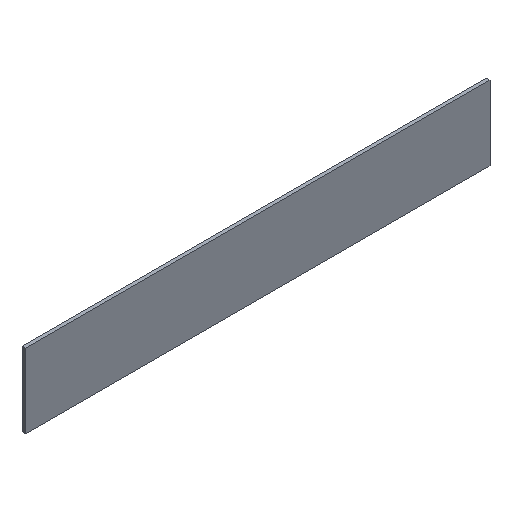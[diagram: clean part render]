
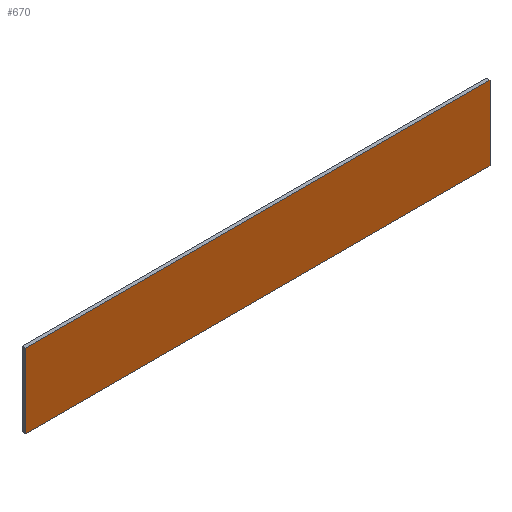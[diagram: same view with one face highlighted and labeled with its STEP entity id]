
A CAD part, isometric view. The second image highlights one B-rep face of the part: STEP entity #670.
In plain terms, the highlighted planar face has unit normal (0, -1, 0).
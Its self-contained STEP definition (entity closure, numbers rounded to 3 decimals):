
#38 = CARTESIAN_POINT ( 'NONE',  ( -25., 0., -4. ) ) ;
#55 = CARTESIAN_POINT ( 'NONE',  ( -25., 0., -4. ) ) ;
#57 = PLANE ( 'NONE',  #147 ) ;
#63 = EDGE_CURVE ( 'NONE', #165, #436, #631, .T. ) ;
#87 = CARTESIAN_POINT ( 'NONE',  ( -25., 0., -4. ) ) ;
#96 = DIRECTION ( 'NONE',  ( -1., 0., 0. ) ) ;
#111 = CARTESIAN_POINT ( 'NONE',  ( 0., 0., 0. ) ) ;
#147 = AXIS2_PLACEMENT_3D ( 'NONE', #111, #645, #705 ) ;
#163 = LINE ( 'NONE', #435, #402 ) ;
#165 = VERTEX_POINT ( 'NONE', #630 ) ;
#194 = EDGE_CURVE ( 'NONE', #488, #603, #622, .T. ) ;
#224 = ORIENTED_EDGE ( 'NONE', *, *, #707, .F. ) ;
#241 = ORIENTED_EDGE ( 'NONE', *, *, #63, .F. ) ;
#244 = VECTOR ( 'NONE', #288, 1000. ) ;
#258 = ORIENTED_EDGE ( 'NONE', *, *, #586, .F. ) ;
#288 = DIRECTION ( 'NONE',  ( 0., 0., 1. ) ) ;
#347 = EDGE_LOOP ( 'NONE', ( #258, #241, #224, #498 ) ) ;
#357 = FACE_OUTER_BOUND ( 'NONE', #347, .T. ) ;
#402 = VECTOR ( 'NONE', #619, 1000. ) ;
#435 = CARTESIAN_POINT ( 'NONE',  ( 25., 0., -4. ) ) ;
#436 = VERTEX_POINT ( 'NONE', #495 ) ;
#451 = CARTESIAN_POINT ( 'NONE',  ( -25., 0., 4. ) ) ;
#488 = VERTEX_POINT ( 'NONE', #692 ) ;
#495 = CARTESIAN_POINT ( 'NONE',  ( 25., 0., 4. ) ) ;
#498 = ORIENTED_EDGE ( 'NONE', *, *, #194, .F. ) ;
#586 = EDGE_CURVE ( 'NONE', #436, #488, #163, .T. ) ;
#590 = VECTOR ( 'NONE', #96, 1000. ) ;
#603 = VERTEX_POINT ( 'NONE', #38 ) ;
#610 = VECTOR ( 'NONE', #738, 1000. ) ;
#619 = DIRECTION ( 'NONE',  ( 0., 0., -1. ) ) ;
#622 = LINE ( 'NONE', #87, #590 ) ;
#630 = CARTESIAN_POINT ( 'NONE',  ( -25., 0., 4. ) ) ;
#631 = LINE ( 'NONE', #451, #610 ) ;
#645 = DIRECTION ( 'NONE',  ( 0., 1., 0. ) ) ;
#670 = ADVANCED_FACE ( 'NONE', ( #357 ), #57, .F. ) ;
#692 = CARTESIAN_POINT ( 'NONE',  ( 25., 0., -4. ) ) ;
#705 = DIRECTION ( 'NONE',  ( 0., 0., 1. ) ) ;
#707 = EDGE_CURVE ( 'NONE', #603, #165, #708, .T. ) ;
#708 = LINE ( 'NONE', #55, #244 ) ;
#738 = DIRECTION ( 'NONE',  ( 1., 0., 0. ) ) ;
